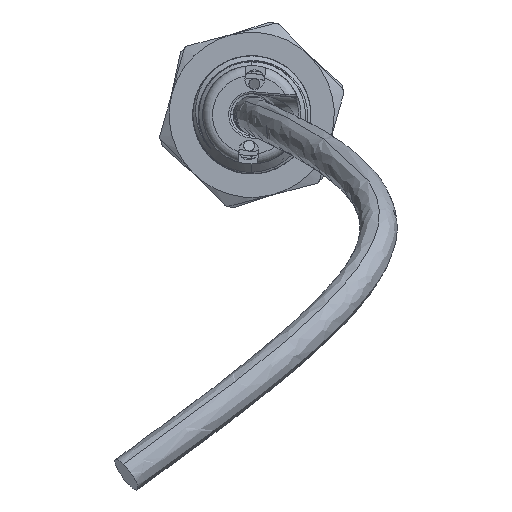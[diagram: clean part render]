
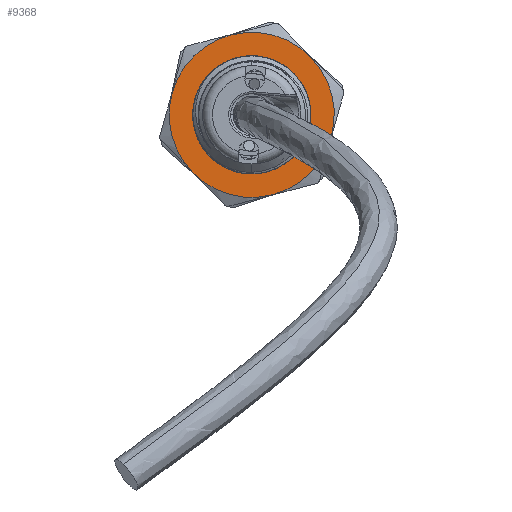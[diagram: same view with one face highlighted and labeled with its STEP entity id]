
A CAD part, front view. The second image highlights one B-rep face of the part: STEP entity #9368.
In plain terms, the highlighted planar face has unit normal (0, -1, 0).
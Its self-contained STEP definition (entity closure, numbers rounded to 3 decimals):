
#457 = VERTEX_POINT ( 'NONE', #12720 ) ;
#511 = VERTEX_POINT ( 'NONE', #12666 ) ;
#512 = VERTEX_POINT ( 'NONE', #12665 ) ;
#514 = VERTEX_POINT ( 'NONE', #12663 ) ;
#3619 = AXIS2_PLACEMENT_3D ( 'NONE', #8036, #8037, #8038 ) ;
#3620 = AXIS2_PLACEMENT_3D ( 'NONE', #8056, #8057, #8058 ) ;
#3632 = AXIS2_PLACEMENT_3D ( 'NONE', #9245, #9246, #9248 ) ;
#3635 = AXIS2_PLACEMENT_3D ( 'NONE', #9284, #9285, #9287 ) ;
#4070 = CIRCLE ( 'NONE', #3619, 8.4 ) ;
#4073 = CIRCLE ( 'NONE', #3620, 6.025 ) ;
#4115 = CIRCLE ( 'NONE', #3632, 6.025 ) ;
#4133 = CIRCLE ( 'NONE', #3635, 8.4 ) ;
#5245 = PLANE ( 'NONE',  #14817 ) ;
#5252 = CARTESIAN_POINT ( 'NONE',  ( 8.435, -3.542, 7.052 ) ) ;
#5253 = DIRECTION ( 'NONE',  ( 0., -1., 0. ) ) ;
#5254 = DIRECTION ( 'NONE',  ( -0.249, 0., 0.968 ) ) ;
#8036 = CARTESIAN_POINT ( 'NONE',  ( 5.825, -3.542, -2.32 ) ) ;
#8037 = DIRECTION ( 'NONE',  ( 0., -1., 0. ) ) ;
#8038 = DIRECTION ( 'NONE',  ( -0.249, 0., 0.968 ) ) ;
#8056 = CARTESIAN_POINT ( 'NONE',  ( 5.825, -3.542, -2.32 ) ) ;
#8057 = DIRECTION ( 'NONE',  ( 0., -1., 0. ) ) ;
#8058 = DIRECTION ( 'NONE',  ( 0.249, 0., -0.968 ) ) ;
#9245 = CARTESIAN_POINT ( 'NONE',  ( 5.825, -3.542, -2.32 ) ) ;
#9246 = DIRECTION ( 'NONE',  ( 0., -1., 0. ) ) ;
#9248 = DIRECTION ( 'NONE',  ( 0.249, 0., -0.968 ) ) ;
#9284 = CARTESIAN_POINT ( 'NONE',  ( 5.825, -3.542, -2.32 ) ) ;
#9285 = DIRECTION ( 'NONE',  ( 0., -1., 0. ) ) ;
#9287 = DIRECTION ( 'NONE',  ( -0.249, 0., 0.968 ) ) ;
#9368 = ADVANCED_FACE ( 'NONE', ( #11514, #11518 ), #5245, .T. ) ;
#11514 = FACE_BOUND ( 'NONE', #17997, .T. ) ;
#11518 = FACE_OUTER_BOUND ( 'NONE', #17994, .T. ) ;
#12393 = ORIENTED_EDGE ( 'NONE', *, *, #14874, .F. ) ;
#12394 = ORIENTED_EDGE ( 'NONE', *, *, #18318, .F. ) ;
#12395 = ORIENTED_EDGE ( 'NONE', *, *, #14870, .T. ) ;
#12396 = ORIENTED_EDGE ( 'NONE', *, *, #18330, .T. ) ;
#12663 = CARTESIAN_POINT ( 'NONE',  ( 3.731, -3.542, 5.815 ) ) ;
#12665 = CARTESIAN_POINT ( 'NONE',  ( 7.328, -3.542, -8.154 ) ) ;
#12666 = CARTESIAN_POINT ( 'NONE',  ( 4.323, -3.542, 3.515 ) ) ;
#12720 = CARTESIAN_POINT ( 'NONE',  ( 7.92, -3.542, -10.454 ) ) ;
#14817 = AXIS2_PLACEMENT_3D ( 'NONE', #5252, #5253, #5254 ) ;
#14870 = EDGE_CURVE ( 'NONE', #457, #514, #4070, .T. ) ;
#14874 = EDGE_CURVE ( 'NONE', #512, #511, #4073, .T. ) ;
#17994 = EDGE_LOOP ( 'NONE', ( #12395, #12396 ) ) ;
#17997 = EDGE_LOOP ( 'NONE', ( #12393, #12394 ) ) ;
#18318 = EDGE_CURVE ( 'NONE', #511, #512, #4115, .T. ) ;
#18330 = EDGE_CURVE ( 'NONE', #514, #457, #4133, .T. ) ;
